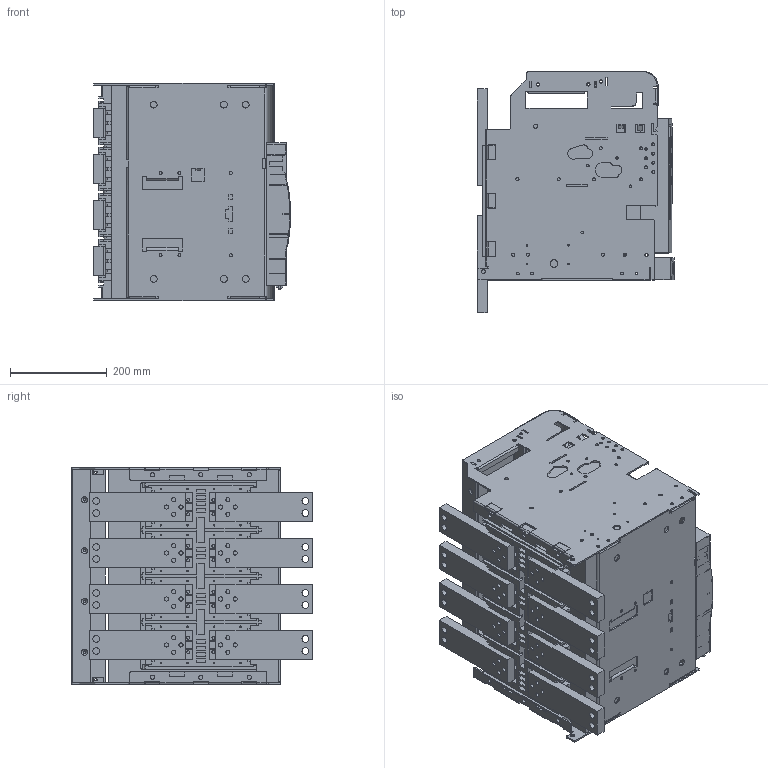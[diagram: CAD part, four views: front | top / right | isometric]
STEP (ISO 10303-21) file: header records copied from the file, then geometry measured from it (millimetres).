
FILE_DESCRIPTION (( 'STEP AP214' ), '1' );
FILE_NAME ('OptiMat A-S2-B-2000-4P-D-X.STEP', '2023-07-31T11:10:26', ( '' ), ( '' ), 'SwSTEP 2.0', 'SolidWorks 2018', '' );
FILE_SCHEMA (( 'AUTOMOTIVE_DESIGN' ));
Length unit declared in the file: millimetre
Products named in the file (1): OptiMat A-S2-B-2000-4P-D-X
Bounding box: 407.05 x 498.5 x 450 mm (x, y, z)
Volume: 50671139.8 mm3; surface area: 2803391.8 mm2
Topology: 17 solids, 34 shells, 4217 faces, 11420 edges, 7494 vertices
Faces by surface type: plane 2809, cylinder 1296, cone 77, torus 25, bspline 10
Entity records: 184269 total; most frequent: CARTESIAN_POINT 29299, ORIENTED_EDGE 22836, DIRECTION 22382, EDGE_CURVE 11418, LINE 8604, VECTOR 8604, VERTEX_POINT 7494, AXIS2_PLACEMENT_3D 6889
